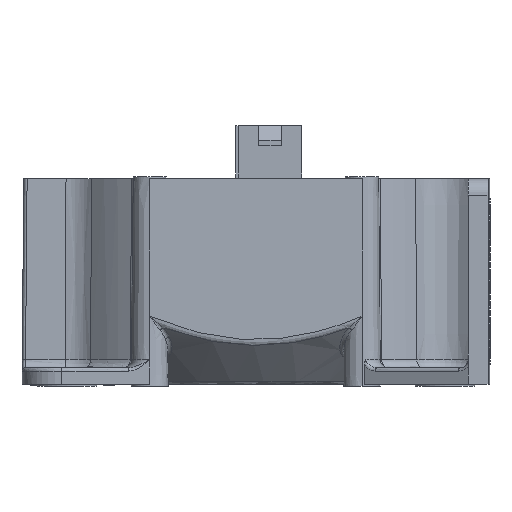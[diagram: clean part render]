
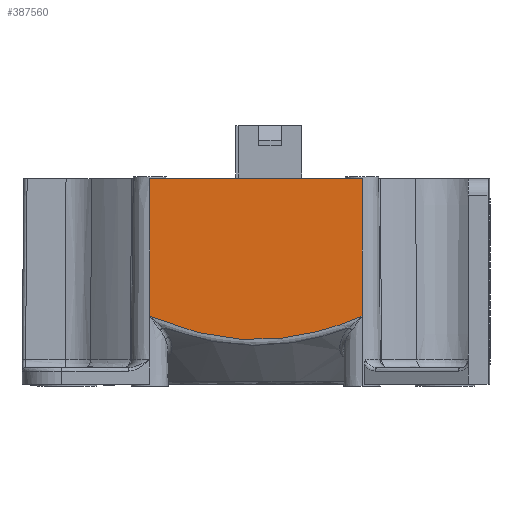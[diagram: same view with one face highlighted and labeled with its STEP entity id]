
A CAD part, left-side view. The second image highlights one B-rep face of the part: STEP entity #387560.
In plain terms, the highlighted planar face has unit normal (-1, 0, 0.009).
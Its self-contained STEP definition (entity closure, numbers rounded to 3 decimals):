
#93150=CARTESIAN_POINT('',(-35.181,16.,10.267));
#93160=VERTEX_POINT('',#93150);
#93210=CARTESIAN_POINT('',(-35.181,16.,
10.267));
#93220=CARTESIAN_POINT('',(-35.182,15.775,
10.172));
#93230=CARTESIAN_POINT('',(-35.183,15.55,
10.078));
#93240=CARTESIAN_POINT('',(-35.185,14.999,
9.854));
#93250=CARTESIAN_POINT('',(-35.186,14.673,
9.724));
#93260=CARTESIAN_POINT('',(-35.188,14.018,
9.472));
#93270=CARTESIAN_POINT('',(-35.189,13.689,
9.348));
#93280=CARTESIAN_POINT('',(-35.191,13.029,
9.109));
#93290=CARTESIAN_POINT('',(-35.192,12.698,
8.993));
#93300=CARTESIAN_POINT('',(-35.195,11.701,
8.654));
#93310=CARTESIAN_POINT('',(-35.197,11.031,
8.444));
#93320=CARTESIAN_POINT('',(-35.199,10.02,
8.151));
#93330=CARTESIAN_POINT('',(-35.2,9.682,
8.058));
#93340=CARTESIAN_POINT('',(-35.202,9.003,
7.88));
#93350=CARTESIAN_POINT('',(-35.203,8.663,
7.795));
#93360=CARTESIAN_POINT('',(-35.204,7.98,
7.634));
#93370=CARTESIAN_POINT('',(-35.205,7.639,
7.558));
#93380=CARTESIAN_POINT('',(-35.206,6.953,
7.415));
#93390=CARTESIAN_POINT('',(-35.206,6.61,
7.349));
#93400=CARTESIAN_POINT('',(-35.207,5.921,
7.225));
#93410=CARTESIAN_POINT('',(-35.208,5.575,
7.168));
#93420=CARTESIAN_POINT('',(-35.209,4.883,
7.064));
#93430=CARTESIAN_POINT('',(-35.209,4.536,
7.016));
#93440=CARTESIAN_POINT('',(-35.21,3.841,
6.932));
#93450=CARTESIAN_POINT('',(-35.21,3.493,
6.895));
#93460=CARTESIAN_POINT('',(-35.211,2.796,
6.831));
#93470=CARTESIAN_POINT('',(-35.211,2.448,
6.805));
#93480=CARTESIAN_POINT('',(-35.212,1.749,
6.762));
#93490=CARTESIAN_POINT('',(-35.212,1.399,
6.746));
#93500=CARTESIAN_POINT('',(-35.212,0.7,
6.725));
#93510=CARTESIAN_POINT('',(-35.212,0.35,
6.719));
#93520=CARTESIAN_POINT('',(-35.212,-0.35,
6.719));
#93530=CARTESIAN_POINT('',(-35.212,-0.7,
6.725));
#93540=CARTESIAN_POINT('',(-35.212,-1.399,
6.746));
#93550=CARTESIAN_POINT('',(-35.212,-1.749,
6.762));
#93560=CARTESIAN_POINT('',(-35.211,-2.447,
6.805));
#93570=CARTESIAN_POINT('',(-35.211,-2.796,
6.831));
#93580=CARTESIAN_POINT('',(-35.21,-3.493,
6.895));
#93590=CARTESIAN_POINT('',(-35.21,-3.841,
6.932));
#93600=CARTESIAN_POINT('',(-35.209,-4.536,
7.016));
#93610=CARTESIAN_POINT('',(-35.209,-4.883,
7.064));
#93620=CARTESIAN_POINT('',(-35.208,-5.575,
7.168));
#93630=CARTESIAN_POINT('',(-35.207,-5.92,
7.225));
#93640=CARTESIAN_POINT('',(-35.206,-6.61,
7.349));
#93650=CARTESIAN_POINT('',(-35.206,-6.953,
7.415));
#93660=CARTESIAN_POINT('',(-35.205,-7.639,
7.558));
#93670=CARTESIAN_POINT('',(-35.204,-7.98,
7.634));
#93680=CARTESIAN_POINT('',(-35.203,-8.662,
7.795));
#93690=CARTESIAN_POINT('',(-35.202,-9.003,
7.88));
#93700=CARTESIAN_POINT('',(-35.2,-9.682,
8.058));
#93710=CARTESIAN_POINT('',(-35.199,-10.02,
8.151));
#93720=CARTESIAN_POINT('',(-35.197,-11.031,
8.444));
#93730=CARTESIAN_POINT('',(-35.195,-11.701,
8.654));
#93740=CARTESIAN_POINT('',(-35.192,-12.698,
8.993));
#93750=CARTESIAN_POINT('',(-35.191,-13.029,
9.109));
#93760=CARTESIAN_POINT('',(-35.189,-13.689,
9.348));
#93770=CARTESIAN_POINT('',(-35.188,-14.018,
9.472));
#93780=CARTESIAN_POINT('',(-35.186,-14.673,
9.724));
#93790=CARTESIAN_POINT('',(-35.185,-14.999,
9.854));
#93800=CARTESIAN_POINT('',(-35.183,-15.55,
10.078));
#93810=CARTESIAN_POINT('',(-35.182,-15.775,
10.172));
#93820=CARTESIAN_POINT('',(-35.181,-16.,
10.267));
#93830=B_SPLINE_CURVE_WITH_KNOTS('',3,(#93210,#93220,#93230,#93240,
#93250,#93260,#93270,#93280,#93290,#93300,#93310,#93320,#93330,#93340,
#93350,#93360,#93370,#93380,#93390,#93400,#93410,#93420,#93430,#93440,
#93450,#93460,#93470,#93480,#93490,#93500,#93510,#93520,#93530,#93540,
#93550,#93560,#93570,#93580,#93590,#93600,#93610,#93620,#93630,#93640,
#93650,#93660,#93670,#93680,#93690,#93700,#93710,#93720,#93730,#93740,
#93750,#93760,#93770,#93780,#93790,#93800,#93810,#93820),.UNSPECIFIED.,
.F.,.F.,(4,2,2,2,2,2,2,2,2,2,2,2,2,2,2,2,2,2,2,2,2,2,2,2,2,2,2,2,2,2,4),
(66.776,67.513,68.575,69.638,
70.7,72.826,73.89,74.954,
76.015,77.077,78.14,79.202,
80.264,81.327,82.39,83.453,
84.515,85.578,86.641,87.703,
88.766,89.828,90.89,91.951,
93.015,94.079,96.205,97.267,
98.33,99.392,100.129),.UNSPECIFIED.);
#93840=CARTESIAN_POINT('',(-35.181,-16.,10.267));
#93850=VERTEX_POINT('',#93840);
#93860=EDGE_CURVE('',#93160,#93850,#93830,.T.);
#99710=CARTESIAN_POINT('',(-35.,16.,31.));
#99720=DIRECTION('',(-0.009,0.,-1.));
#99730=VECTOR('',#99720,286.483);
#99740=LINE('',#99710,#99730);
#386350=CARTESIAN_POINT('',(-35.,16.,31.));
#386360=VERTEX_POINT('',#386350);
#386700=CARTESIAN_POINT('',(-35.,-16.,31.));
#386710=VERTEX_POINT('',#386700);
#386740=CARTESIAN_POINT('',(-35.,0.,31.));
#386750=DIRECTION('',(0.,-1.,0.));
#386760=VECTOR('',#386750,1.);
#386770=LINE('',#386740,#386760);
#386780=EDGE_CURVE('',#386360,#386710,#386770,.T.);
#387390=CARTESIAN_POINT('',(-35.271,18.5,0.002))
;
#387400=DIRECTION('',(1.,0.,-0.009));
#387410=DIRECTION('',(0.,-1.,0.));
#387420=AXIS2_PLACEMENT_3D('',#387390,#387400,#387410);
#387430=PLANE('',#387420);
#387440=ORIENTED_EDGE('',*,*,#93860,.T.);
#387450=EDGE_CURVE('',#386360,#93160,#99740,.T.);
#387460=ORIENTED_EDGE('',*,*,#387450,.T.);
#387470=ORIENTED_EDGE('',*,*,#386780,.F.);
#387480=CARTESIAN_POINT('',(-35.,-16.,31.));
#387490=DIRECTION('',(-0.009,0.,-1.));
#387500=VECTOR('',#387490,286.483);
#387510=LINE('',#387480,#387500);
#387520=EDGE_CURVE('',#386710,#93850,#387510,.T.);
#387530=ORIENTED_EDGE('',*,*,#387520,.F.);
#387540=EDGE_LOOP('',(#387530,#387470,#387460,#387440));
#387550=FACE_OUTER_BOUND('',#387540,.T.);
#387560=ADVANCED_FACE('',(#387550),#387430,.F.);
